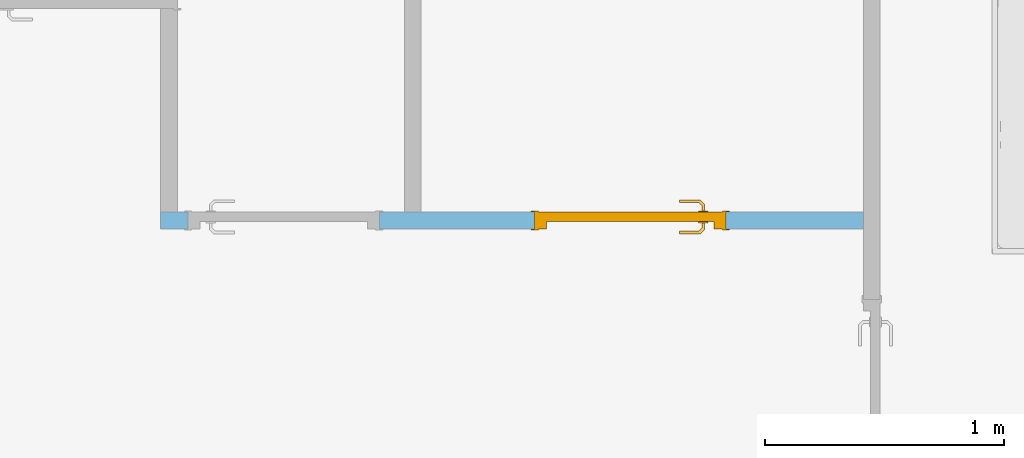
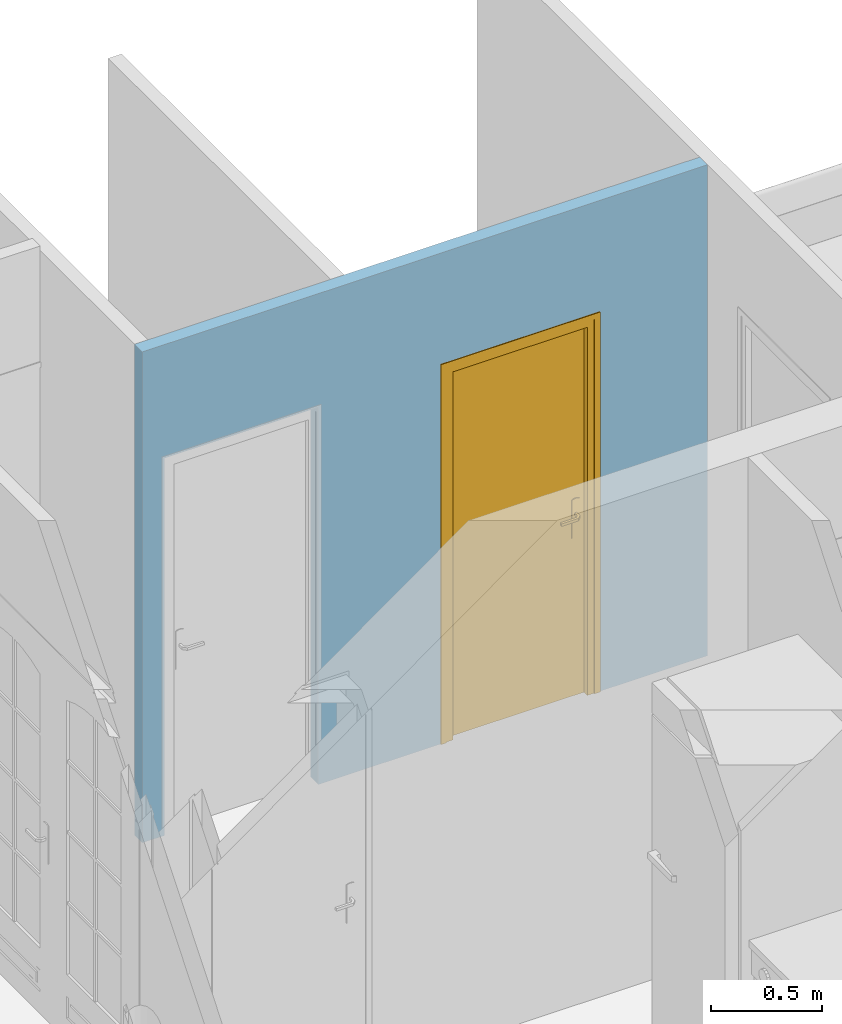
# One storey, part 4 of 15: 1 door, 2 openings, plus 1 element that does not belong to this part.
"""IFC2X3 building model written with IfcOpenShell, lengths in metres."""

from ifc_helpers import new_model, entity, si_unit, converted_unit, derived_unit, direction, frame, frame_2d, origin, place, context, subcontext, project, spatial, polyline, rectangle, extrude, clip, bounded_halfspace, faceted_brep, source, transform, mapped, material, material_list, layer, layer_set, layer_usage, type_object, type_shapes, element, fill, save


model = new_model("IFC2X3")

# Units and contexts
model_context = context("Model", 3, precision=1e-05, world=origin(), true_north=direction((6.12303176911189e-17, 1.0)))
body_context = subcontext(model_context, "Body", "Model", "MODEL_VIEW")
ifc_project = project(units=[si_unit("LENGTHUNIT", "METRE"), si_unit("AREAUNIT", "SQUARE_METRE"), si_unit("VOLUMEUNIT", "CUBIC_METRE"), converted_unit("PLANEANGLEUNIT", "DEGREE", entity("IfcRatioMeasure", 0.0174532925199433), si_unit("PLANEANGLEUNIT", "RADIAN"), dimensions=[0, 0, 0, 0, 0, 0, 0]), si_unit("MASSUNIT", "GRAM", prefix="KILO"), derived_unit("MASSDENSITYUNIT", [(si_unit("MASSUNIT", "GRAM", prefix="KILO"), 1), (si_unit("LENGTHUNIT", "METRE"), -3)]), derived_unit("MOMENTOFINERTIAUNIT", [(si_unit("LENGTHUNIT", "METRE"), 4)]), si_unit("TIMEUNIT", "SECOND"), si_unit("FREQUENCYUNIT", "HERTZ"), si_unit("THERMODYNAMICTEMPERATUREUNIT", "DEGREE_CELSIUS"), derived_unit("THERMALTRANSMITTANCEUNIT", [(si_unit("MASSUNIT", "GRAM", prefix="KILO"), 1), (si_unit("THERMODYNAMICTEMPERATUREUNIT", "KELVIN"), -1), (si_unit("TIMEUNIT", "SECOND"), -3)]), derived_unit("VOLUMETRICFLOWRATEUNIT", [(si_unit("LENGTHUNIT", "METRE"), 3), (si_unit("TIMEUNIT", "SECOND"), -1)]), si_unit("ELECTRICCURRENTUNIT", "AMPERE"), si_unit("ELECTRICVOLTAGEUNIT", "VOLT"), si_unit("POWERUNIT", "WATT"), si_unit("FORCEUNIT", "NEWTON", prefix="KILO"), si_unit("ILLUMINANCEUNIT", "LUX"), si_unit("LUMINOUSFLUXUNIT", "LUMEN"), si_unit("LUMINOUSINTENSITYUNIT", "CANDELA"), derived_unit("USERDEFINED", [(si_unit("MASSUNIT", "GRAM", prefix="KILO"), -1), (si_unit("LENGTHUNIT", "METRE"), -2), (si_unit("TIMEUNIT", "SECOND"), 3), (si_unit("LUMINOUSFLUXUNIT", "LUMEN"), 1)]), derived_unit("LINEARVELOCITYUNIT", [(si_unit("LENGTHUNIT", "METRE"), 1), (si_unit("TIMEUNIT", "SECOND"), -1)]), si_unit("PRESSUREUNIT", "PASCAL"), derived_unit("USERDEFINED", [(si_unit("LENGTHUNIT", "METRE"), -2), (si_unit("MASSUNIT", "GRAM", prefix="KILO"), 1), (si_unit("TIMEUNIT", "SECOND"), -2)]), derived_unit("LINEARFORCEUNIT", [(si_unit("MASSUNIT", "GRAM", prefix="KILO"), 1), (si_unit("LENGTHUNIT", "METRE"), 1), (si_unit("TIMEUNIT", "SECOND"), -2), (si_unit("LENGTHUNIT", "METRE"), -1)]), derived_unit("PLANARFORCEUNIT", [(si_unit("MASSUNIT", "GRAM", prefix="KILO"), 1), (si_unit("LENGTHUNIT", "METRE"), 1), (si_unit("TIMEUNIT", "SECOND"), -2), (si_unit("LENGTHUNIT", "METRE"), -2)])], contexts=[model_context])

# Site, building, storey
site_placement = place(None, origin())
site = spatial("IfcSite", under=ifc_project, at=site_placement, Name="Surface", CompositionType="ELEMENT")
building_placement = place(site_placement, origin())
building = spatial("IfcBuilding", under=site, at=building_placement, CompositionType="ELEMENT")
storey_placement = place(building_placement, frame((0.0, 0.0, 2.65)))
storey = spatial("IfcBuildingStorey", under=building, at=storey_placement, Name="Niveau étage", CompositionType="ELEMENT", Elevation=2.65)

# Wall, openings, door
ifc_material_1 = material(Name="Mur par défaut")
ifc_layer = layer(ifc_material_1, 0.07)
ifc_layer_set = layer_set([ifc_layer], Name="Mur de base:Int. Plâtre 7cm")
ifc_layer_usage = layer_usage(ifc_layer_set, "AXIS2", "NEGATIVE", 0.035)
wall_type = type_object("IfcWallType", Name="Mur de base:Int. Plâtre 7cm", PredefinedType="STANDARD", material=ifc_layer_set)
wall_placement = place(storey_placement, frame((9.89939607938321, 4.96925810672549, 0.0), z_axis=(0.0, 0.0, 1.0), x_axis=(-1.0, 0.0, 0.0)))
wall = element("IfcWallStandardCase", 1, at=wall_placement, inside=storey, type_object=wall_type, material=ifc_layer_usage, Name="Mur de base:Int. Plâtre 7cm", ObjectType="Mur de base:Int. Plâtre 7cm", context=body_context, shape_type="Clipping", body=[
    clip(extrude(rectangle(XDim=2.94, YDim=0.0699999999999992, at=frame_2d((1.47, 1.90819582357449e-16), x_axis=(-1.0, 0.0))), origin(), (0.0, 0.0, 1.0), 2.7), bounded_halfspace(frame((0.0, -0.0350000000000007, 2.7), z_axis=(0.0, 0.0, -1.0), x_axis=(1.0, 0.0, 0.0)), True, frame((0.0, -0.0350000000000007, 2.7)), polyline([(0.0, 0.0), (1.85, 0.0), (1.92, 0.0), (2.87, 0.0), (2.94, 0.0), (2.94, 0.0700000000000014), (0.0, 0.0700000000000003), (0.0, 0.0)]))),
])
opening_1_placement = place(wall_placement, frame((2.825, 0.0350000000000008, 0.0)))
element("IfcOpeningElement", 2, at=opening_1_placement, cuts=wall, Name="Int. Simple:PP (0.73m x 2.04m):1", ObjectType="Opening", context=body_context, shape_type="SweptSolid", body=[
    extrude(rectangle(XDim=2.075, YDim=0.799999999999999, at=frame_2d((1.0375, 0.4), x_axis=(1.0, 0.0))), frame((0.0, 0.0, 0.0), z_axis=(0.0, -1.0, 0.0), x_axis=(0.0, 0.0, 1.0)), (0.0, 0.0, 1.0), 0.07),
])
opening_2_placement = place(wall_placement, frame((1.37499999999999, 0.0350000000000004, 0.0)))
opening_2 = element("IfcOpeningElement", 3, at=opening_2_placement, cuts=wall, Name="Int. Simple:PP (0.73m x 2.04m):1", ObjectType="Opening", context=body_context, shape_type="SweptSolid", body=[
    extrude(rectangle(XDim=2.075, YDim=0.799999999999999, at=frame_2d((1.0375, 0.4), x_axis=(1.0, 0.0))), frame((0.0, 0.0, 0.0), z_axis=(0.0, -1.0, 0.0), x_axis=(0.0, 0.0, 1.0)), (0.0, 0.0, 1.0), 0.07),
])
ifc_material_2 = material(Name="Finition Peinture - Blanc satiné")
ifc_material_3 = material(Name="Bois - Panneau de porte")
ifc_material_4 = material(Name="Bois - Cadre de porte")
ifc_material_list_1 = material_list([ifc_material_2, ifc_material_3, ifc_material_4])
ifc_material_list_2 = material_list([ifc_material_4, ifc_material_3, ifc_material_2])
door_style = type_object("IfcDoorStyle", Name="Int. Simple:PP (0.73m x 2.04m)", ConstructionType="NOTDEFINED", OperationType="NOTDEFINED", ParameterTakesPrecedence=False, Sizeable=False, material=ifc_material_list_2)
shared_shape = source(origin(), body_context, "Body", "Brep", [
    faceted_brep([(0.105352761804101, -0.00500000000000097, 0.866003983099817), (0.115, -0.00500000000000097, 0.870000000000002), (0.114999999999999, -0.00500000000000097, 1.08), (0.1053527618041, -0.00500000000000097, 1.08399601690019), (0.0949999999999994, -0.00500000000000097, 1.08535898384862), (0.0846472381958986, -0.00500000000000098, 1.08399601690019), (0.0749999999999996, -0.00500000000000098, 1.08), (0.0750000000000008, -0.00500000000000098, 0.870000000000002), (0.0846472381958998, -0.00500000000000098, 0.866003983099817), (0.0950000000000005, -0.00500000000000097, 0.86464101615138), (0.1053527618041, 0.0, 1.08399601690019), (0.114999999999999, 0.0, 1.08), (0.115, 0.0, 0.870000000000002), (0.105352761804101, 0.0, 0.866003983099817), (0.0950000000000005, 0.0, 0.86464101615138), (0.0846472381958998, 0.0, 0.866003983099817), (0.0749999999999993, 0.0, 0.870000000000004), (0.0749999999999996, 0.0, 1.08), (0.0846472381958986, 0.0, 1.08399601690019), (0.0949999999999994, 0.0, 1.08535898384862)], [[[0, 1, 2, 3, 4, 5, 6, 7, 8, 9]], [[10, 11, 12, 13, 14, 15, 16, 17, 18, 19]], [[16, 15, 8, 7]], [[8, 15, 14, 9]], [[14, 13, 0, 9]], [[13, 12, 1, 0]], [[2, 1, 12, 11]], [[11, 10, 3, 2]], [[3, 10, 19, 4]], [[19, 18, 5, 4]], [[18, 17, 6, 5]], [[7, 6, 17, 16]]]),
    faceted_brep([(0.105352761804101, 0.039999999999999, 0.866003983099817), (0.115, 0.039999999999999, 0.870000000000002), (0.114999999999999, 0.039999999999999, 1.08), (0.1053527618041, 0.039999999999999, 1.08399601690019), (0.094999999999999, 0.039999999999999, 1.08535898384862), (0.0846472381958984, 0.039999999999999, 1.08399601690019), (0.0749999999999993, 0.039999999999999, 1.08), (0.0750000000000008, 0.039999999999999, 0.870000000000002), (0.0846472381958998, 0.039999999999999, 0.866003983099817), (0.0950000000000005, 0.039999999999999, 0.86464101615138), (0.1053527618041, 0.044999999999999, 1.08399601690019), (0.114999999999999, 0.044999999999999, 1.08), (0.115, 0.044999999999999, 0.870000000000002), (0.105352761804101, 0.044999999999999, 0.866003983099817), (0.0950000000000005, 0.044999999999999, 0.86464101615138), (0.0846472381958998, 0.044999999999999, 0.866003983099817), (0.0749999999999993, 0.044999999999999, 0.870000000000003), (0.0749999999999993, 0.044999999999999, 1.08), (0.0846472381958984, 0.044999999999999, 1.08399601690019), (0.094999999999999, 0.044999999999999, 1.08535898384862)], [[[0, 1, 2, 3, 4, 5, 6, 7, 8, 9]], [[10, 11, 12, 13, 14, 15, 16, 17, 18, 19]], [[11, 10, 3, 2]], [[3, 10, 19, 4]], [[19, 18, 5, 4]], [[18, 17, 6, 5]], [[7, 6, 17, 16]], [[16, 15, 8, 7]], [[8, 15, 14, 9]], [[14, 13, 0, 9]], [[13, 12, 1, 0]], [[2, 1, 12, 11]]]),
    faceted_brep([(0.0929747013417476, -0.00500000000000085, 1.00778044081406), (0.0970252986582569, -0.00500000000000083, 1.00778044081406), (0.101000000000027, -0.00500000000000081, 1.00699999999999), (0.101000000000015, -0.00500000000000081, 0.993000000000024), (0.0970252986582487, -0.00500000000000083, 0.992219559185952), (0.0929747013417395, -0.00500000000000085, 0.99221955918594), (0.0889999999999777, -0.00500000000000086, 0.992999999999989), (0.0889999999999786, -0.00500000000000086, 1.007), (0.0889999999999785, -0.0326509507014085, 1.007), (0.0929747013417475, -0.0310045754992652, 1.00778044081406), (0.109023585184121, -0.047053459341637, 1.00778044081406), (0.110701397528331, -0.0430028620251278, 1.00778044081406), (0.0970252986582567, -0.0293267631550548, 1.00778044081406), (0.101000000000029, -0.0276803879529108, 1.007), (0.101000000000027, -0.0276803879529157, 0.993000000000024), (0.0970252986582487, -0.0293267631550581, 0.992219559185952), (0.110701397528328, -0.0430028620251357, 0.992219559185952), (0.109023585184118, -0.0470534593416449, 0.99221955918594), (0.0929747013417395, -0.0310045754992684, 0.99221955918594), (0.0889999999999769, -0.0326509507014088, 0.992999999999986), (0.107377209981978, -0.051028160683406, 1.007), (0.112347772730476, -0.039028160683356, 1.007), (0.112347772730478, -0.0390281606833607, 0.993000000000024), (0.107377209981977, -0.0510281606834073, 0.992999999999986), (0.195018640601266, -0.051028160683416, 0.992999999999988), (0.195018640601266, -0.0470534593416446, 0.99221955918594), (0.195018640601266, -0.0430028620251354, 0.992219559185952), (0.195018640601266, -0.0390281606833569, 0.993000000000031), (0.195018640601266, -0.0390281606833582, 1.007), (0.195018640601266, -0.0430028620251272, 1.00778044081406), (0.195018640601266, -0.0470534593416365, 1.00778044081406), (0.195018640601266, -0.0510281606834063, 1.00699999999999), (0.147307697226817, -0.0510281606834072, 1.007), (0.152860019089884, -0.0450281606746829, 1.0078786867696), (0.15368320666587, -0.0390281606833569, 1.007), (0.153683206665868, -0.0390281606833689, 0.993000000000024), (0.152860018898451, -0.0450281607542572, 0.992121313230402), (0.147307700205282, -0.0510281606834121, 0.992999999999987)], [[[0, 1, 2, 3, 4, 5, 6, 7]], [[8, 9, 0, 7]], [[9, 10, 11, 12, 1, 0]], [[12, 13, 2, 1]], [[3, 2, 13, 14]], [[14, 15, 4, 3]], [[15, 16, 17, 18, 5, 4]], [[18, 19, 6, 5]], [[7, 6, 19, 8]], [[20, 10, 9, 8]], [[11, 21, 13, 12]], [[14, 13, 21, 22]], [[22, 16, 15, 14]], [[17, 23, 19, 18]], [[8, 19, 23, 20]], [[24, 25, 26, 27, 28, 29, 30, 31]], [[32, 30, 33]], [[31, 30, 32]], [[10, 20, 32]], [[33, 34, 11]], [[21, 11, 34]], [[34, 29, 28]], [[30, 29, 33]], [[29, 34, 33]], [[10, 32, 33]], [[10, 33, 11]], [[22, 21, 34, 28, 27, 35]], [[35, 26, 36]], [[37, 36, 25]], [[22, 35, 16]], [[35, 27, 26]], [[24, 37, 25]], [[23, 17, 37]], [[37, 17, 36]], [[17, 16, 36]], [[16, 35, 36]], [[25, 36, 26]], [[20, 23, 37, 24, 31, 32]]]),
    faceted_brep([(0.0929747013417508, 0.0449999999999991, 1.00778044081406), (0.0889999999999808, 0.0449999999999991, 1.007), (0.0889999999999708, 0.0449999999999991, 0.992999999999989), (0.0929747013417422, 0.0449999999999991, 0.99221955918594), (0.0970252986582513, 0.0449999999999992, 0.992219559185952), (0.10100000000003, 0.0449999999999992, 0.993000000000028), (0.101000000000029, 0.0449999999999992, 1.007), (0.0970252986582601, 0.0449999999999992, 1.00778044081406), (0.10100000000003, 0.0674852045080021, 0.993000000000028), (0.10100000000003, 0.0674852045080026, 1.007), (0.0970252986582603, 0.0691315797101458, 1.00778044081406), (0.110838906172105, 0.0829451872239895, 1.00778044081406), (0.109161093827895, 0.0869957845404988, 1.00778044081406), (0.092974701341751, 0.070809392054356, 1.00778044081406), (0.0889999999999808, 0.0724557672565, 1.007), (0.0889999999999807, 0.0724557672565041, 0.992999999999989), (0.0929747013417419, 0.0708093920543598, 0.99221955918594), (0.109161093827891, 0.0869957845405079, 0.99221955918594), (0.110838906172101, 0.0829451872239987, 0.992219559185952), (0.0970252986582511, 0.0691315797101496, 0.992219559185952), (0.112485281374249, 0.0789704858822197, 0.993000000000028), (0.112485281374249, 0.07897048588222, 1.007), (0.107514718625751, 0.090970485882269, 1.007), (0.107514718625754, 0.0909704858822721, 0.992999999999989), (0.195045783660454, 0.0789704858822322, 0.993000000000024), (0.195045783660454, 0.0829451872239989, 0.992219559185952), (0.195045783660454, 0.0869957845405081, 0.99221955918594), (0.195045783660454, 0.0909704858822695, 0.992999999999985), (0.195045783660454, 0.0909704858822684, 1.007), (0.195045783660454, 0.0869957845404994, 1.00778044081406), (0.195045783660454, 0.0829451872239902, 1.00778044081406), (0.195045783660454, 0.07897048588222, 1.007), (0.153765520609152, 0.0789704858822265, 0.993000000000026), (0.153765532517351, 0.0789704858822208, 1.007), (0.152942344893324, 0.0849704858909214, 1.0078786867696), (0.147445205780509, 0.0909704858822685, 1.007), (0.147445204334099, 0.0909704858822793, 0.992999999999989), (0.152942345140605, 0.0849704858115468, 0.992121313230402)], [[[0, 1, 2, 3, 4, 5, 6, 7]], [[6, 5, 8, 9]], [[9, 10, 7, 6]], [[10, 11, 12, 13, 0, 7]], [[13, 14, 1, 0]], [[2, 1, 14, 15]], [[15, 16, 3, 2]], [[16, 17, 18, 19, 4, 3]], [[19, 8, 5, 4]], [[9, 8, 20, 21]], [[21, 11, 10, 9]], [[12, 22, 14, 13]], [[15, 14, 22, 23]], [[23, 17, 16, 15]], [[18, 20, 8, 19]], [[24, 25, 26, 27, 28, 29, 30, 31]], [[21, 20, 32, 24, 31, 33]], [[33, 30, 34]], [[35, 34, 29]], [[21, 33, 11]], [[33, 31, 30]], [[28, 35, 29]], [[22, 12, 35]], [[35, 12, 34]], [[12, 11, 34]], [[11, 33, 34]], [[29, 34, 30]], [[22, 35, 28, 27, 36, 23]], [[36, 26, 37]], [[27, 26, 36]], [[17, 23, 36]], [[37, 32, 18]], [[20, 18, 32]], [[32, 25, 24]], [[26, 25, 37]], [[25, 32, 37]], [[17, 36, 37]], [[17, 37, 18]]]),
    faceted_brep([(0.0349999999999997, 0.0400000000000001, 2.04), (0.765, 0.0400000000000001, 2.04), (0.765, 0.0400000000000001, 0.0), (0.0349999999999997, 0.0400000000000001, 0.0), (0.0349999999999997, 0.0, 2.04), (0.0349999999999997, 0.0, 0.0), (0.765, 0.0, 0.0), (0.765, 0.0, 2.04)], [[[0, 1, 2, 3]], [[4, 5, 6, 7]], [[1, 0, 4, 7]], [[2, 1, 7, 6]], [[3, 2, 6, 5]], [[0, 3, 5, 4]]]),
    faceted_brep([(0.0, 0.0, 0.0), (0.0, 0.0699999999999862, 0.0), (0.0500000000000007, 0.0699999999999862, 0.0), (0.0500000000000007, 0.04, 0.0), (0.0349999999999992, 0.04, 0.0), (0.0349999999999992, 0.0, 0.0), (0.0, 0.0, 2.07500000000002), (0.0, 0.0699999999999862, 2.07500000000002), (0.800000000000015, 0.0699999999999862, 2.07500000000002), (0.800000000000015, 0.0699999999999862, 0.0), (0.749999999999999, 0.0699999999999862, 0.0), (0.749999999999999, 0.0699999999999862, 2.025), (0.0500000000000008, 0.0699999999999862, 2.025), (0.0500000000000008, 0.04, 2.025), (0.749999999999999, 0.04, 2.025), (0.749999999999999, 0.04, 0.0), (0.765000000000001, 0.04, 0.0), (0.765000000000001, 0.04, 2.04), (0.0349999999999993, 0.04, 2.04), (0.0349999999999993, 0.0, 2.04), (0.765000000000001, 0.0, 2.04), (0.765000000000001, 0.0, 0.0), (0.800000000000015, 0.0, 0.0), (0.800000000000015, 0.0, 2.07500000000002)], [[[0, 1, 2, 3, 4, 5]], [[1, 0, 6, 7]], [[2, 1, 7, 8, 9, 10, 11, 12]], [[3, 2, 12, 13]], [[4, 3, 13, 14, 15, 16, 17, 18]], [[5, 4, 18, 19]], [[0, 5, 19, 20, 21, 22, 23, 6]], [[8, 23, 22, 9]], [[22, 21, 16, 15, 10, 9]], [[14, 11, 10, 15]], [[20, 17, 16, 21]], [[7, 6, 23, 8]], [[13, 12, 11, 14]], [[19, 18, 17, 20]]]),
    faceted_brep([(0.0149999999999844, 0.0699999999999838, 0.0), (-0.0150000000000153, 0.0699999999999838, 0.0), (-0.0150000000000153, 0.0749999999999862, 0.0), (0.0149999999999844, 0.0749999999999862, 0.0), (0.0149999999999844, 0.0699999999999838, 2.06000000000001), (0.784999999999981, 0.0699999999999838, 2.06000000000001), (0.784999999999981, 0.0699999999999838, 0.0), (0.81499999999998, 0.0699999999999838, 0.0), (0.81499999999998, 0.0699999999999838, 2.09000000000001), (-0.0150000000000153, 0.0699999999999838, 2.09000000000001), (-0.0150000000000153, 0.0749999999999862, 2.09000000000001), (0.81499999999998, 0.0749999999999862, 2.09000000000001), (0.81499999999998, 0.0749999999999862, 0.0), (0.784999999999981, 0.0749999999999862, 0.0), (0.784999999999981, 0.0749999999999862, 2.06000000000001), (0.0149999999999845, 0.0749999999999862, 2.06000000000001)], [[[0, 1, 2, 3]], [[1, 0, 4, 5, 6, 7, 8, 9]], [[2, 1, 9, 10]], [[3, 2, 10, 11, 12, 13, 14, 15]], [[0, 3, 15, 4]], [[6, 13, 12, 7]], [[5, 14, 13, 6]], [[11, 8, 7, 12]], [[10, 9, 8, 11]], [[4, 15, 14, 5]]]),
    faceted_brep([(-0.0150000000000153, -0.00499999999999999, 0.0), (0.0149999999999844, -0.00499999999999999, 0.0), (0.0149999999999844, -0.00499999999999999, 2.06000000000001), (0.784999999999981, -0.00499999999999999, 2.06000000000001), (0.784999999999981, -0.00499999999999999, 0.0), (0.81499999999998, -0.00499999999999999, 0.0), (0.81499999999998, -0.00499999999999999, 2.09000000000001), (-0.0150000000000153, -0.00499999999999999, 2.09000000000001), (-0.0150000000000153, 0.0, 0.0), (-0.0150000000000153, 0.0, 2.09000000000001), (0.0149999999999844, 0.0, 0.0), (0.81499999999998, 0.0, 2.09000000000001), (0.81499999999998, 0.0, 0.0), (0.784999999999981, 0.0, 0.0), (0.784999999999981, 0.0, 2.06000000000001), (0.0149999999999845, 0.0, 2.06000000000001)], [[[0, 1, 2, 3, 4, 5, 6, 7]], [[8, 0, 7, 9]], [[10, 8, 9, 11, 12, 13, 14, 15]], [[1, 10, 15, 2]], [[3, 14, 13, 4]], [[11, 6, 5, 12]], [[9, 7, 6, 11]], [[2, 15, 14, 3]], [[4, 13, 12, 5]], [[1, 0, 8, 10]]]),
])
type_shapes(door_style, [shared_shape])
door_placement = place(opening_2_placement, frame((-0.800000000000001, -0.0699999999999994, 0.0)))
door = element("IfcDoor", 4, at=door_placement, inside=storey, type_object=door_style, material=ifc_material_list_1, Name="Int. Simple:PP (0.73m x 2.04m)", ObjectType="Int. Simple:PP (0.73m x 2.04m)", OverallHeight=2.075, OverallWidth=0.8, context=body_context, shape_type="MappedRepresentation", body=[
    mapped(shared_shape, transform((0.0, 0.0, 0.0), scale=1.0)),
])
fill(opening_2, door)

save(model, "model.ifc")
